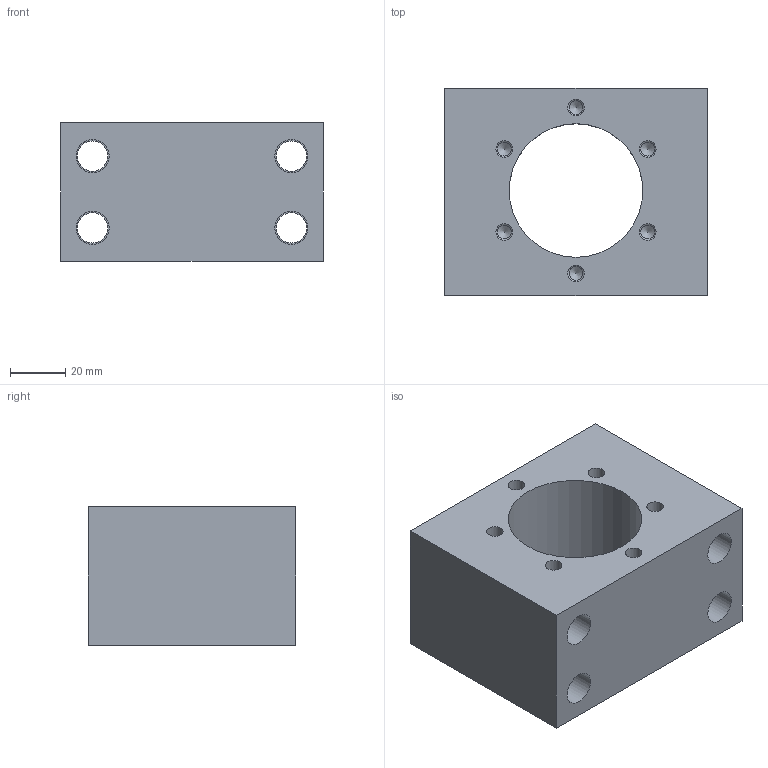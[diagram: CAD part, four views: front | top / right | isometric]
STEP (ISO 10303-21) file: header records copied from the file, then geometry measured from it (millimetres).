
FILE_DESCRIPTION(/* description */ (''),/* implementation_level */ '2;1');
FILE_NAME(/* name */ 'MGS32-1-M6.stp',/* time_stamp */ '2017-01-04T16:01:42+08:00',/* author */ (''),/* organization */ (''),/* preprocessor_version */ 'ST-DEVELOPER v15',/* originating_system */ 'SIEMENS PLM Software NX 8.5',/* authorisation */ '');
FILE_SCHEMA (('AUTOMOTIVE_DESIGN { 1 0 10303 214 3 1 1 1 }'));
Length unit declared in the file: millimetre
Products named in the file (1): Admi05BC77158bc5
Bounding box: 95 x 75 x 50 mm (x, y, z)
Volume: 224219.2 mm3; surface area: 47628.9 mm2
Topology: 1 solids, 1 shells, 51 faces, 119 edges, 78 vertices
Faces by surface type: cylinder 25, plane 14, cone 12
Full cylindrical faces by diameter (mm): 5 x6, 6 x6, 11 x4, 12 x4, 17.5 x4, 48.4 x1
Entity records: 1182 total; most frequent: DIRECTION 216, CARTESIAN_POINT 178, ORIENTED_EDGE 124, FACE_BOUND 110, EDGE_LOOP 106, AXIS2_PLACEMENT_3D 102, VERTEX_POINT 64, EDGE_CURVE 62
